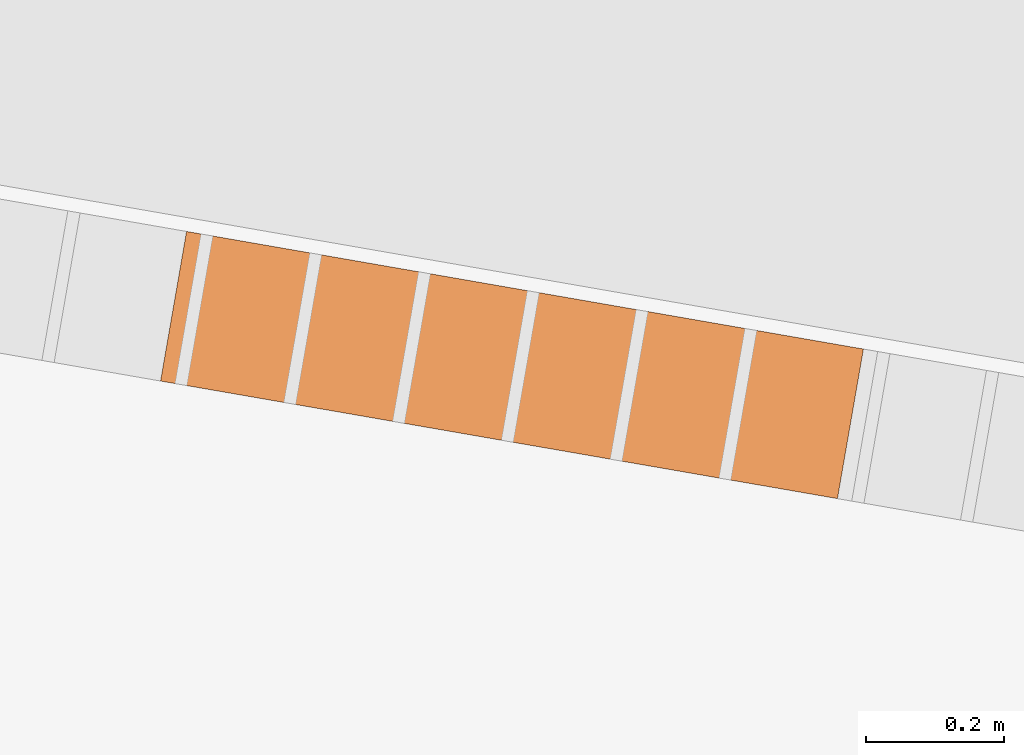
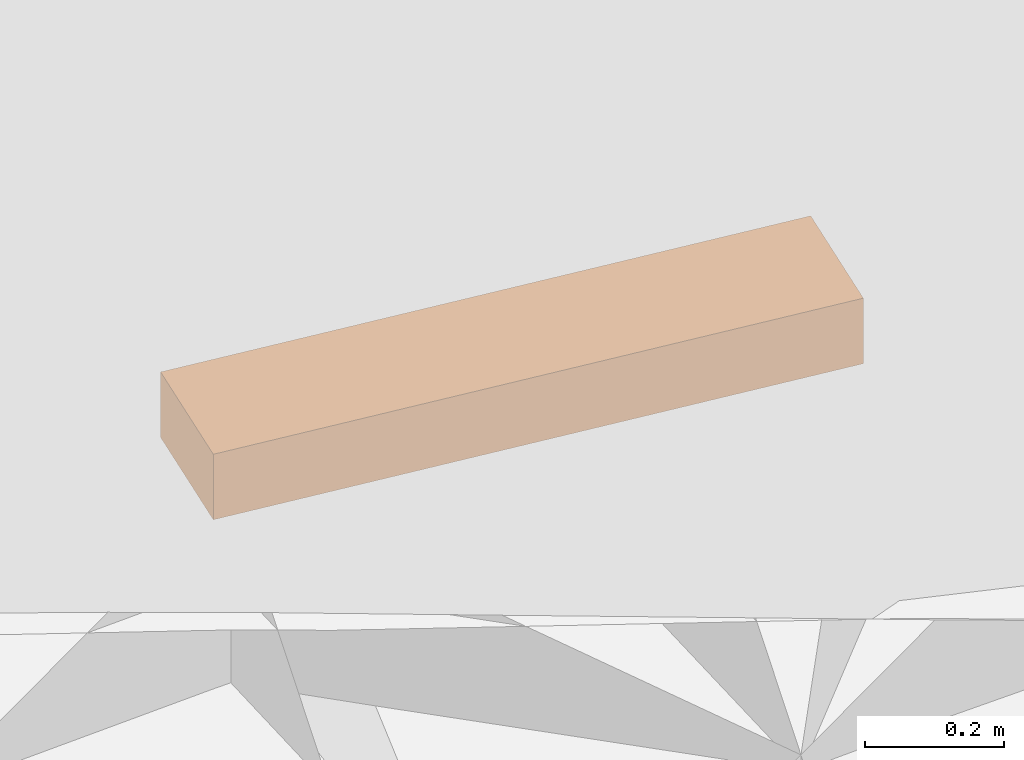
# Not in any storey, part 22 of 33: 1 proxy.
"""IFC4 model written with IfcOpenShell, lengths in metres."""

import ifcopenshell
import ifcopenshell.guid

model = None  # the IFC model being written
_history = None  # IfcOwnerHistory: only IFC2X3 demands one
_inside = {}  # id of a spatial element -> (the spatial element, [elements in it])
_under = {}  # id of a project, library or spatial element -> (it, [spatial elements below it])
_declared = {}  # id of a project -> (the project, [libraries it declares])
_typed = {}  # id of a type object -> (the type object, [elements of that type])
_made_of = {}  # id of a material, layer set ... -> (it, [elements and type objects made of it])


def new_model(schema):
    """Start an empty IFC model of exactly this schema.

    Asked for "IFC4X3", IfcOpenShell would pick the latest addendum, in which some entities
    have other attributes; the version numbers below select the first issue.
    IFC2X3 requires an IfcOwnerHistory on every rooted entity: one is made here for all.
    """
    global model, _history
    if schema == "IFC4X3":
        model = ifcopenshell.file(schema_version=(4, 3, 0, 0))
    else:
        model = ifcopenshell.file(schema=schema)
    _inside.clear()
    _under.clear()
    _declared.clear()
    _typed.clear()
    _made_of.clear()
    _history = None
    if model.schema == "IFC2X3":
        org = make("IfcOrganization", Name="unknown")
        user = make(
            "IfcPersonAndOrganization",
            ThePerson=make("IfcPerson", FamilyName="unknown"),
            TheOrganization=org,
        )
        app = make(
            "IfcApplication",
            ApplicationDeveloper=org,
            Version="unknown",
            ApplicationFullName="unknown",
            ApplicationIdentifier="unknown",
        )
        _history = make(
            "IfcOwnerHistory",
            OwningUser=user,
            OwningApplication=app,
            ChangeAction="ADDED",
            CreationDate=0,
        )
    return model


def make(cls, **values):
    """One entity of the class cls with the attributes given. An attribute that is None is left unset."""
    return model.create_entity(
        cls, **{name: value for name, value in values.items() if value is not None}
    )


def rooted(cls, **values):
    """An entity with a GlobalId (a new one), such as an element, a storey or a relation."""
    return make(cls, GlobalId=ifcopenshell.guid.new(), OwnerHistory=_history, **values)


def si_unit(unit_type, name, prefix=None):
    """IfcSIUnit, for example si_unit("LENGTHUNIT", "METRE", prefix="MILLI")."""
    return make("IfcSIUnit", UnitType=unit_type, Prefix=prefix, Name=name)


def assignment(units):
    """IfcUnitAssignment: the units of a project."""
    return None if units is None else make("IfcUnitAssignment", Units=units)


def point(xyz):
    """IfcCartesianPoint."""
    return None if xyz is None else make("IfcCartesianPoint", Coordinates=xyz)


def direction(xyz):
    """IfcDirection."""
    return None if xyz is None else make("IfcDirection", DirectionRatios=xyz)


def frame(location, z_axis=None, x_axis=None):
    """IfcAxis2Placement3D, a coordinate frame: its origin and axes. An axis left out is left unset."""
    return make(
        "IfcAxis2Placement3D",
        Location=point(location),
        Axis=direction(z_axis),
        RefDirection=direction(x_axis),
    )


def origin_with_axes():
    """The frame at (0, 0, 0) with the z axis (0, 0, 1) and the x axis (1, 0, 0) written out."""
    return frame((0.0, 0.0, 0.0), z_axis=(0.0, 0.0, 1.0), x_axis=(1.0, 0.0, 0.0))


def place(relative_to, where):
    """IfcLocalPlacement: puts the frame where relative to a parent placement (None: the world)."""
    return make(
        "IfcLocalPlacement", PlacementRelTo=relative_to, RelativePlacement=where
    )


def context(
    kind, dimensions, precision=None, world=None, true_north=None, identifier=None
):
    """IfcGeometricRepresentationContext, for example the 3D "Model" context."""
    return make(
        "IfcGeometricRepresentationContext",
        ContextIdentifier=identifier,
        ContextType=kind,
        CoordinateSpaceDimension=dimensions,
        Precision=precision,
        WorldCoordinateSystem=world,
        TrueNorth=true_north,
    )


def subcontext(parent, identifier, kind, view, scale=None):
    """IfcGeometricRepresentationSubContext, for example "Body" below "Model"."""
    return make(
        "IfcGeometricRepresentationSubContext",
        ContextIdentifier=identifier,
        ContextType=kind,
        ParentContext=parent,
        TargetScale=scale,
        TargetView=view,
    )


def project(units=None, contexts=None):
    """IfcProject with its units and contexts."""
    return rooted(
        "IfcProject",
        Name="project",
        RepresentationContexts=contexts,
        UnitsInContext=assignment(units),
    )


def spatial(cls, under=None, at=None, **own):
    """A site, building, storey or space (cls), placed at a placement, below another one or the project."""
    s = rooted(cls, ObjectPlacement=at, **own)
    if under is not None:
        _under.setdefault(under.id(), (under, []))[1].append(s)
    return s


def point_list(points):
    """IfcCartesianPointList2D or 3D."""
    cls = (
        "IfcCartesianPointList2D" if len(points[0]) == 2 else "IfcCartesianPointList3D"
    )
    return make(cls, CoordList=points)


def polygons(points, faces, closed=None, point_numbers=None):
    """IfcPolygonalFaceSet: a face is its outer loop, then its inner loops; points numbered from 1."""
    made = []
    for loops in faces:
        if len(loops) == 1:
            made.append(make("IfcIndexedPolygonalFace", CoordIndex=loops[0]))
        else:
            made.append(
                make(
                    "IfcIndexedPolygonalFaceWithVoids",
                    CoordIndex=loops[0],
                    InnerCoordIndices=loops[1:],
                )
            )
    return make(
        "IfcPolygonalFaceSet",
        Coordinates=point_list(points),
        Closed=closed,
        Faces=made,
        PnIndex=point_numbers,
    )


def shape(context_of_items, identifier, shape_type, items):
    """IfcShapeRepresentation: the items that make up one representation, for example the "Body"."""
    return make(
        "IfcShapeRepresentation",
        ContextOfItems=context_of_items,
        RepresentationIdentifier=identifier,
        RepresentationType=shape_type,
        Items=items,
    )


def material(Name=None, Category=None):
    """IfcMaterial."""
    return make("IfcMaterial", Name=Name, Category=Category)


def made_of(thing, what):
    """Note that an element or type object is made of a material, layer set ...; save() writes the relation."""
    if what is not None:
        _made_of.setdefault(what.id(), (what, []))[1].append(thing)
    return thing


def element(
    cls,
    number,
    at=None,
    inside=None,
    cuts=None,
    type_object=None,
    material=None,
    context=None,
    identifier="Body",
    shape_type=None,
    held_by="IfcProductDefinitionShape",
    body=None,
    shapes=None,
    **own,
):
    """One element of the class cls, such as IfcWall. Its Tag is "e" and its number.

    at: its placement. inside: the storey or other place that contains it. cuts: it is an
    opening in that element (IfcRelVoidsElement). A single representation is given by context,
    identifier, shape_type and body (its items); several are given by shapes. held_by: the class
    of the entity that holds the representations. save() writes the other relations.
    """
    e = rooted(cls, Tag="e%d" % number, ObjectPlacement=at, **own)
    if body is not None:
        shapes = [shape(context, identifier, shape_type, body)]
    if shapes is not None:
        e.Representation = make(held_by, Representations=shapes)
    if inside is not None:
        _inside.setdefault(inside.id(), (inside, []))[1].append(e)
    if cuts is not None:
        rooted(
            "IfcRelVoidsElement", RelatingBuildingElement=cuts, RelatedOpeningElement=e
        )
    if type_object is not None:
        _typed.setdefault(type_object.id(), (type_object, []))[1].append(e)
    return made_of(e, material)


def aggregate(whole, parts):
    """IfcRelAggregates: a whole, such as a stair, and the parts it consists of."""
    return rooted("IfcRelAggregates", RelatingObject=whole, RelatedObjects=parts)


def save(model, path):
    """Write the relations noted so far, then the file.

    IfcRelAggregates (storeys below a building ...), IfcRelContainedInSpatialStructure (elements
    in a storey), IfcRelDefinesByType, IfcRelAssociatesMaterial and IfcRelDeclares: one each for
    every whole, place, type object, material and project.
    """
    for whole, parts in _under.values():
        aggregate(whole, parts)
    for where, things in _inside.values():
        rooted(
            "IfcRelContainedInSpatialStructure",
            RelatedElements=things,
            RelatingStructure=where,
        )
    for kind, things in _typed.values():
        rooted("IfcRelDefinesByType", RelatedObjects=things, RelatingType=kind)
    for what, things in _made_of.values():
        rooted("IfcRelAssociatesMaterial", RelatedObjects=things, RelatingMaterial=what)
    for by, libraries in _declared.values():
        rooted("IfcRelDeclares", RelatingContext=by, RelatedDefinitions=libraries)
    model.write(path)


model = new_model("IFC4")

# Units and contexts
model_context = context("Model", 3, precision=1e-05, world=origin_with_axes(), true_north=direction((0.0, 1.0)))
body_context = subcontext(model_context, "Body", "Model", "MODEL_VIEW")
ifc_project = project(units=[si_unit("LENGTHUNIT", "METRE"), si_unit("AREAUNIT", "SQUARE_METRE"), si_unit("VOLUMEUNIT", "CUBIC_METRE")], contexts=[model_context])

# Site
site_placement = place(None, origin_with_axes())
site = spatial("IfcSite", under=ifc_project, at=site_placement, Name="Lares · Rua das Mercês · artigo 4771")

# Proxy
ifc_material = material(Name="Brita drenante", Category="stone")
proxy_placement = place(site_placement, frame((0.0, 0.0, 0.0), z_axis=(0.0, 0.0, 1.0), x_axis=(1.0, -1.03767253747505e-17, 0.0)))
element("IfcBuildingElementProxy", 1, at=proxy_placement, inside=site, material=ifc_material, Name="Acesso · dreno lateral raso · leito drenante", ObjectType="Acesso · dreno lateral raso · leito drenante", PredefinedType="USERDEFINED", context=body_context, shape_type="Tessellation", body=[
    polygons([(49.831945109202, 11.1301782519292, 14.7684950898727), (49.8695979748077, 11.3469321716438, 14.7684950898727), (50.8504683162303, 11.1765427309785, 14.8024229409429), (50.8128154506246, 10.9597888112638, 14.8024229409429), (49.831945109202, 11.1301782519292, 14.8834950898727), (49.8695979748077, 11.3469321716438, 14.8834950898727), (50.8504683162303, 11.1765427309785, 14.9174229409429), (50.8128154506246, 10.9597888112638, 14.9174229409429)], [[[4, 3, 2, 1]], [[5, 6, 7, 8]], [[1, 2, 6, 5]], [[2, 3, 7, 6]], [[3, 4, 8, 7]], [[4, 1, 5, 8]]]),
])

save(model, "model.ifc")
